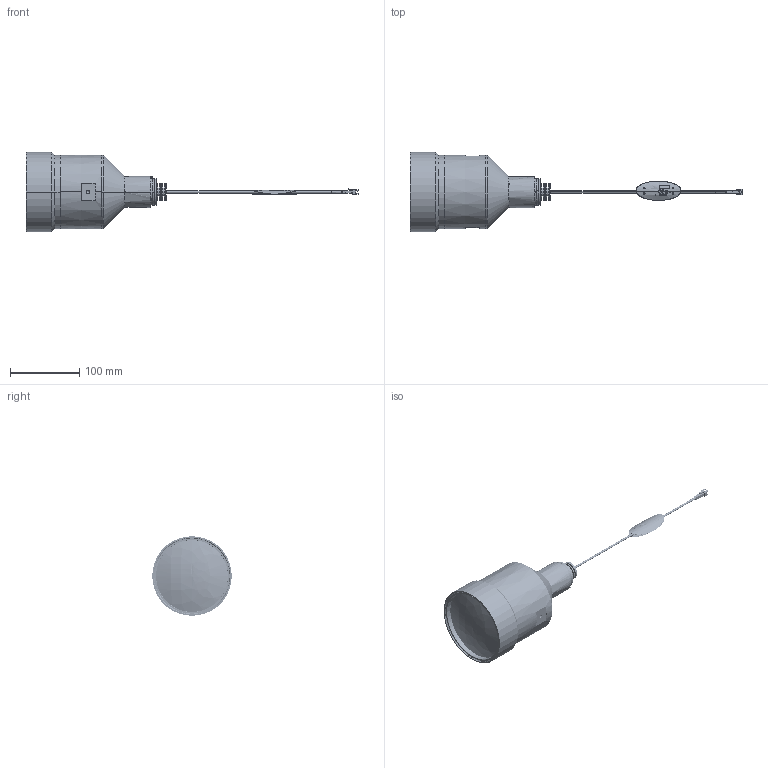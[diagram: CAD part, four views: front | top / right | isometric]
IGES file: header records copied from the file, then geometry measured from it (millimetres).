
Start section: 3D InterOp IGES (v. 2019 1.0.2), Spatial Corp. Copyright (c) 1999-2017.
Global section: file name: VCL-100-2P_DRAWING_3D.iges; native system: Spatial Corp.; preprocessor: 3D InterOp ACIS/IGES; author: Noname; organization: Noname; date: 20240304.115849; units: millimetre
Bounding box: 479.97 x 115 x 115 mm (x, y, z)
Surface area: 244205.7 mm2 (no closed solid volume)
Topology: 0 solids, 0 shells, 1084 faces, 11589 edges, 11566 vertices
Faces by surface type: revolution 720, extrusion 284, bspline 80
